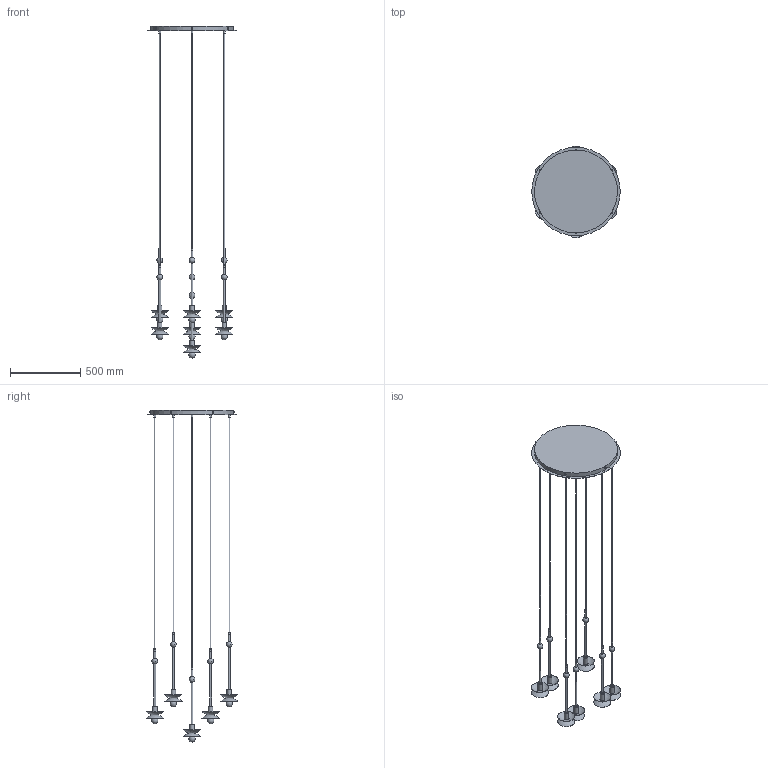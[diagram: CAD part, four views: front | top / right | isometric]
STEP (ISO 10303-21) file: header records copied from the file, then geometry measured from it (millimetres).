
FILE_DESCRIPTION(/* description */ (''),/* implementation_level */ '2;1');
FILE_NAME(/* name */ '260424_B_B769 Babylon Cluster 7.stp',/* time_stamp */ '2026-04-24T12:00:19+02:00',/* author */ ('Dominik'),/* organization */ (''),/* preprocessor_version */ 'ST-DEVELOPER v20.1',/* originating_system */ 'Autodesk Inventor 2026',/* authorisation */ '');
FILE_SCHEMA (('AUTOMOTIVE_DESIGN { 1 0 10303 214 3 1 1 }','TECHNICAL_DATA_PACKAGING'));
Length unit declared in the file: millimetre
Products named in the file (1): B769 jako część
Bounding box: 630 x 653.62 x 2365.45 mm (x, y, z)
Volume: 11017491.8 mm3; surface area: 1562085.2 mm2
Topology: 8 solids, 8 shells, 465 faces, 930 edges, 594 vertices
Faces by surface type: plane 194, cylinder 115, sphere 55, torus 52, cone 42, bspline 7
Full cylindrical faces by diameter (mm): 3 x12, 5.5 x12, 6 x6, 7 x7, 11 x6, 13 x28, 28 x7, 29 x14, 32 x7, 39.5 x14, 590.475 x1, 630 x1
Entity records: 15124 total; most frequent: CARTESIAN_POINT 4571, DIRECTION 2295, ORIENTED_EDGE 1818, AXIS2_PLACEMENT_3D 1033, EDGE_CURVE 909, EDGE_LOOP 620, VERTEX_POINT 594, CIRCLE 574
